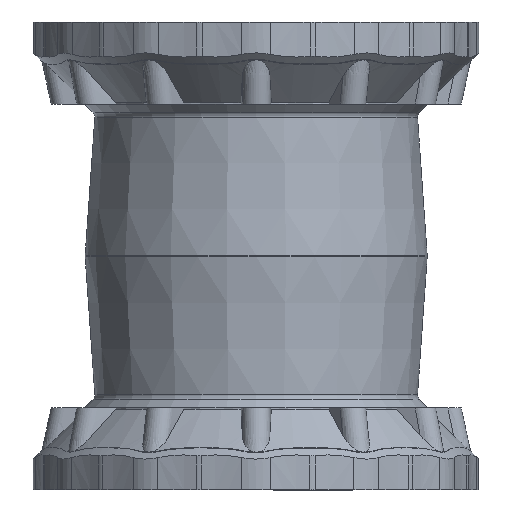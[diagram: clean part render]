
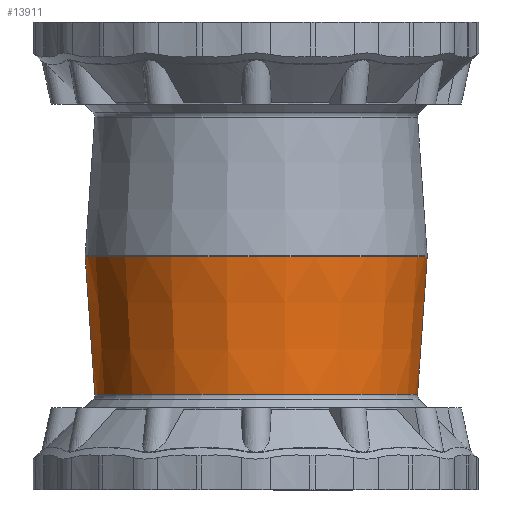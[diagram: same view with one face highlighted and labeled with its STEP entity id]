
A CAD part, front view. The second image highlights one B-rep face of the part: STEP entity #13911.
In plain terms, the highlighted conical face has half-angle 4 degrees and reference radius 276.227 mm.
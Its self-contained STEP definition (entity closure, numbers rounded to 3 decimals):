
#2190 = AXIS2_PLACEMENT_3D ( 'NONE', #9053, #9054, #9055 ) ;
#2197 = AXIS2_PLACEMENT_3D ( 'NONE', #10532, #10534, #10536 ) ;
#5217 = CIRCLE ( 'NONE', #2190, 283.766 ) ;
#5236 = CIRCLE ( 'NONE', #2197, 267.794 ) ;
#5569 = VERTEX_POINT ( 'NONE', #15385 ) ;
#5570 = VERTEX_POINT ( 'NONE', #15387 ) ;
#9053 = CARTESIAN_POINT ( 'NONE',  ( 0., 0., 107.805 ) ) ;
#9054 = DIRECTION ( 'NONE',  ( 0., 0., -1. ) ) ;
#9055 = DIRECTION ( 'NONE',  ( -1., 0., 0. ) ) ;
#10532 = CARTESIAN_POINT ( 'NONE',  ( 0., 0., -120.605 ) ) ;
#10534 = DIRECTION ( 'NONE',  ( 0., 0., 1. ) ) ;
#10536 = DIRECTION ( 'NONE',  ( 1., 0., 0. ) ) ;
#11409 = AXIS2_PLACEMENT_3D ( 'NONE', #30838, #30840, #30834 ) ;
#13911 = ADVANCED_FACE ( 'NONE', ( #19801, #19790 ), #19806, .T. ) ;
#15385 = CARTESIAN_POINT ( 'NONE',  ( -283.766, 0., 107.805 ) ) ;
#15387 = CARTESIAN_POINT ( 'NONE',  ( 267.794, 0., -120.605 ) ) ;
#15987 = EDGE_LOOP ( 'NONE', ( #16341 ) ) ;
#15989 = EDGE_LOOP ( 'NONE', ( #16340 ) ) ;
#16340 = ORIENTED_EDGE ( 'NONE', *, *, #35559, .T. ) ;
#16341 = ORIENTED_EDGE ( 'NONE', *, *, #35593, .T. ) ;
#19790 = FACE_BOUND ( 'NONE', #15987, .T. ) ;
#19801 = FACE_OUTER_BOUND ( 'NONE', #15989, .T. ) ;
#19806 = CONICAL_SURFACE ( 'NONE', #11409, 276.227, 0.07 ) ;
#30834 = DIRECTION ( 'NONE',  ( 1., 0., 0. ) ) ;
#30838 = CARTESIAN_POINT ( 'NONE',  ( 0., 0., 0. ) ) ;
#30840 = DIRECTION ( 'NONE',  ( 0., 0., 1. ) ) ;
#35559 = EDGE_CURVE ( 'NONE', #5569, #5569, #5217, .T. ) ;
#35593 = EDGE_CURVE ( 'NONE', #5570, #5570, #5236, .T. ) ;
